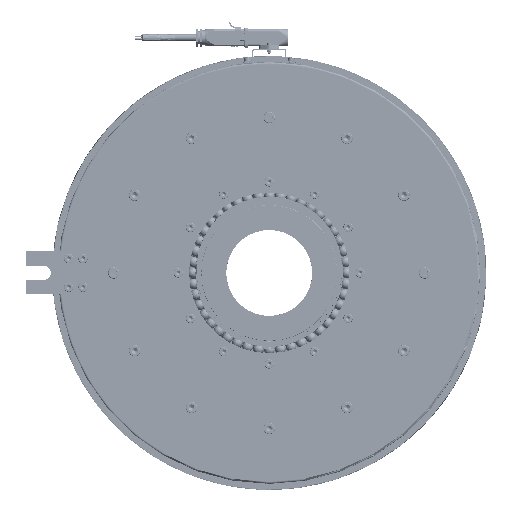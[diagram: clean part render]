
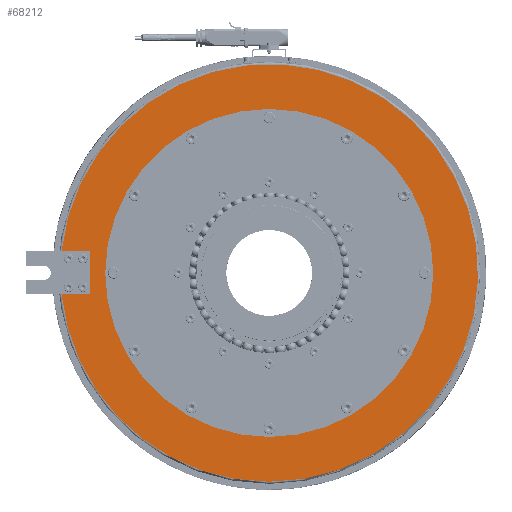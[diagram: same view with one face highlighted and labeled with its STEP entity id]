
A CAD part, left-side view. The second image highlights one B-rep face of the part: STEP entity #68212.
In plain terms, the highlighted planar face has unit normal (-1, 0, 0).
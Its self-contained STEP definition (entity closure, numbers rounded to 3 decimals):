
#1461=FACE_BOUND('',#9507,.T.);
#2873=PLANE('',#72329);
#5920=FACE_OUTER_BOUND('',#9506,.T.);
#9506=EDGE_LOOP('',(#48641,#48642,#48643,#48644,#48645));
#9507=EDGE_LOOP('',(#48646,#48647));
#13075=CIRCLE('',#72330,291.5);
#13076=CIRCLE('',#72331,291.5);
#13077=CIRCLE('',#72332,229.);
#13078=CIRCLE('',#72333,229.);
#18763=LINE('',#104964,#23223);
#18766=LINE('',#104970,#23226);
#18769=LINE('',#104975,#23229);
#23223=VECTOR('',#83885,10.);
#23226=VECTOR('',#83890,10.);
#23229=VECTOR('',#83895,10.);
#27481=VERTEX_POINT('',#104923);
#27482=VERTEX_POINT('',#104925);
#27495=VERTEX_POINT('',#104963);
#27497=VERTEX_POINT('',#104969);
#27499=VERTEX_POINT('',#104978);
#27500=VERTEX_POINT('',#104981);
#27501=VERTEX_POINT('',#104982);
#35468=EDGE_CURVE('',#27495,#27482,#18763,.T.);
#35471=EDGE_CURVE('',#27497,#27495,#18766,.T.);
#35474=EDGE_CURVE('',#27481,#27497,#18769,.T.);
#35476=EDGE_CURVE('',#27499,#27482,#13075,.T.);
#35477=EDGE_CURVE('',#27481,#27499,#13076,.T.);
#35478=EDGE_CURVE('',#27500,#27501,#13077,.T.);
#35479=EDGE_CURVE('',#27501,#27500,#13078,.T.);
#48641=ORIENTED_EDGE('',*,*,#35474,.T.);
#48642=ORIENTED_EDGE('',*,*,#35471,.T.);
#48643=ORIENTED_EDGE('',*,*,#35468,.T.);
#48644=ORIENTED_EDGE('',*,*,#35476,.F.);
#48645=ORIENTED_EDGE('',*,*,#35477,.F.);
#48646=ORIENTED_EDGE('',*,*,#35478,.T.);
#48647=ORIENTED_EDGE('',*,*,#35479,.T.);
#68212=ADVANCED_FACE('',(#5920,#1461),#2873,.T.);
#72329=AXIS2_PLACEMENT_3D('',#104977,#83897,#83898);
#72330=AXIS2_PLACEMENT_3D('',#104979,#83899,#83900);
#72331=AXIS2_PLACEMENT_3D('',#104980,#83901,#83902);
#72332=AXIS2_PLACEMENT_3D('',#104983,#83903,#83904);
#72333=AXIS2_PLACEMENT_3D('',#104984,#83905,#83906);
#83885=DIRECTION('',(0.,1.,0.));
#83890=DIRECTION('',(0.,0.,-1.));
#83895=DIRECTION('',(0.,-1.,0.));
#83897=DIRECTION('center_axis',(-1.,0.,0.));
#83898=DIRECTION('ref_axis',(0.,0.,
1.));
#83899=DIRECTION('center_axis',(1.,0.,0.));
#83900=DIRECTION('ref_axis',(0.,-1.,0.));
#83901=DIRECTION('center_axis',(1.,0.,0.));
#83902=DIRECTION('ref_axis',(0.,-1.,0.));
#83903=DIRECTION('center_axis',(1.,0.,0.));
#83904=DIRECTION('ref_axis',(0.,1.,0.));
#83905=DIRECTION('center_axis',(1.,0.,0.));
#83906=DIRECTION('ref_axis',(0.,1.,0.));
#104923=CARTESIAN_POINT('',(-145.5,289.952,30.));
#104925=CARTESIAN_POINT('',(-145.5,289.952,-30.));
#104963=CARTESIAN_POINT('',(-145.5,250.,-30.));
#104964=CARTESIAN_POINT('',(-145.5,293.625,-30.));
#104969=CARTESIAN_POINT('',(-145.5,250.,30.));
#104970=CARTESIAN_POINT('',(-145.5,250.,-15.));
#104975=CARTESIAN_POINT('',(-145.5,248.625,30.));
#104977=CARTESIAN_POINT('Origin',(-145.5,247.25,0.));
#104978=CARTESIAN_POINT('',(-145.5,0.,-291.5));
#104979=CARTESIAN_POINT('Origin',(-145.5,0.,0.));
#104980=CARTESIAN_POINT('Origin',(-145.5,0.,0.));
#104981=CARTESIAN_POINT('',(-145.5,229.,0.));
#104982=CARTESIAN_POINT('',(-145.5,-229.,0.));
#104983=CARTESIAN_POINT('Origin',(-145.5,0.,0.));
#104984=CARTESIAN_POINT('Origin',(-145.5,0.,0.));
